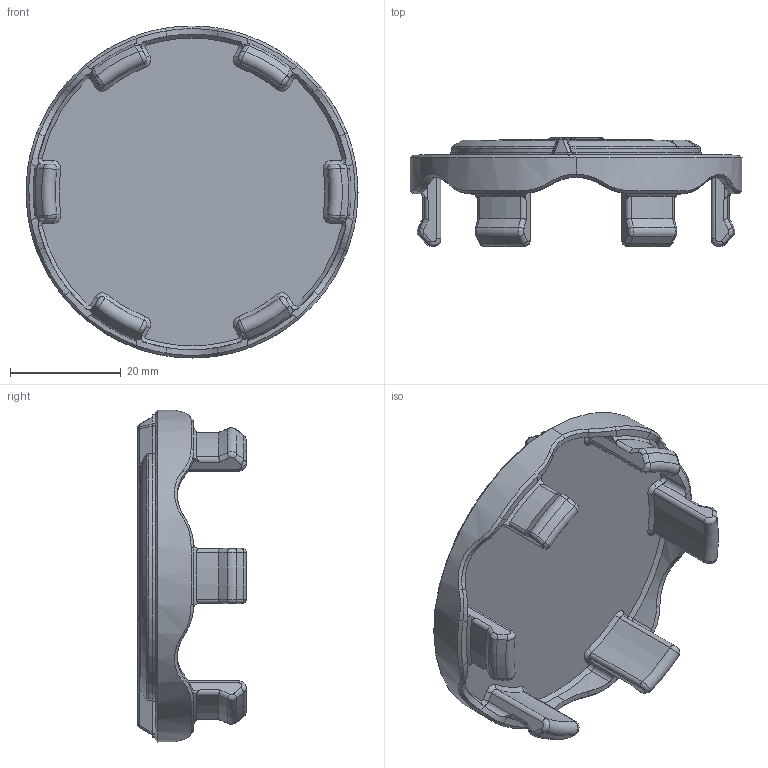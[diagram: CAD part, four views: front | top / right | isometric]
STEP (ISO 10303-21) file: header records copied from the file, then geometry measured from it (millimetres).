
FILE_DESCRIPTION(('CATIA V5 STEP Exchange'),'2;1');
FILE_NAME('P:\Windows Folders\Documents\3D_Design\Opel_cap\Opel_STL\Opel_cap.stp','2020-05-02T08:08:17+00:00',('none'),('none'),'CATIA Version 5-6 Release 2017 SP5','CATIA V5 STEP AP203','none');
FILE_SCHEMA(('CONFIG_CONTROL_DESIGN'));
Length unit declared in the file: millimetre
Products named in the file (1): Opel logo
Bounding box: 60 x 19.65 x 60 mm (x, y, z)
Volume: 11153.1 mm3; surface area: 14149.7 mm2
Topology: 3 solids, 3 shells, 505 faces, 1310 edges, 812 vertices
Faces by surface type: plane 130, cylinder 120, bspline 108, cone 78, extrusion 39, torus 30
Entity records: 23002 total; most frequent: CARTESIAN_POINT 12603, ORIENTED_EDGE 2608, EDGE_CURVE 1304, DIRECTION 1294, VERTEX_POINT 812, B_SPLINE_CURVE_WITH_KNOTS 710, AXIS2_PLACEMENT_3D 531, EDGE_LOOP 520
